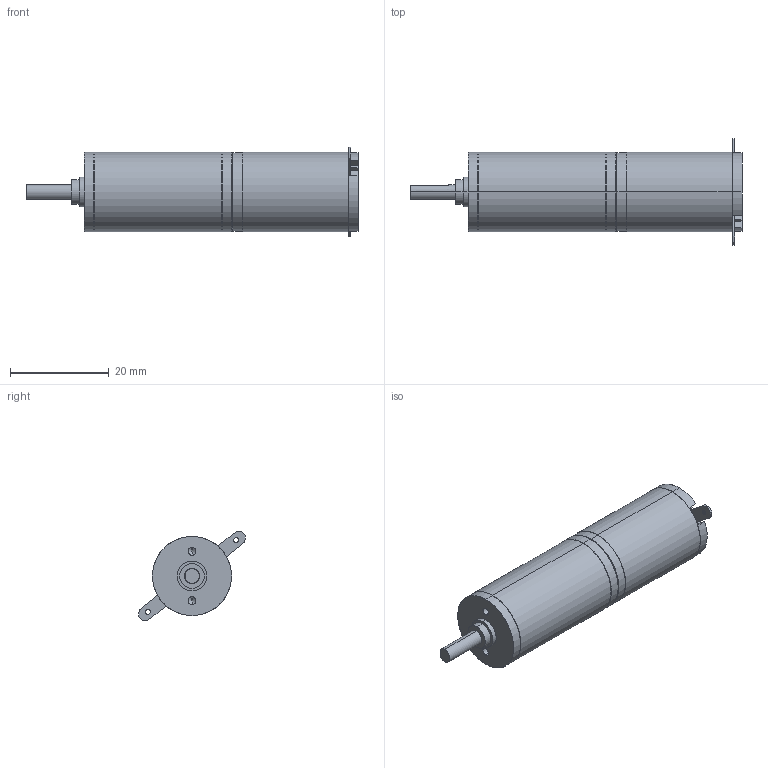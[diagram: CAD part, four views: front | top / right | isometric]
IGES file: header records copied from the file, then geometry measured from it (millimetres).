
Start section: SolidWorks IGES file using analytic representation for surfaces
Global section: file name: \\Uranus\R&D\plans\CATALOGUES\Topstock_Piece_IGES\AMax16CLL_+_GP016A 5etages.IGS; native system: SolidWorks 2008; preprocessor: SolidWorks 2008; author: JUL; date: 090325.182905; units: millimetre
Bounding box: 67.15 x 21.61 x 18.03 mm (x, y, z)
Surface area: 4036.5 mm2 (no closed solid volume)
Topology: 0 solids, 0 shells, 121 faces, 1278 edges, 1262 vertices
Faces by surface type: revolution 75, bspline 46
